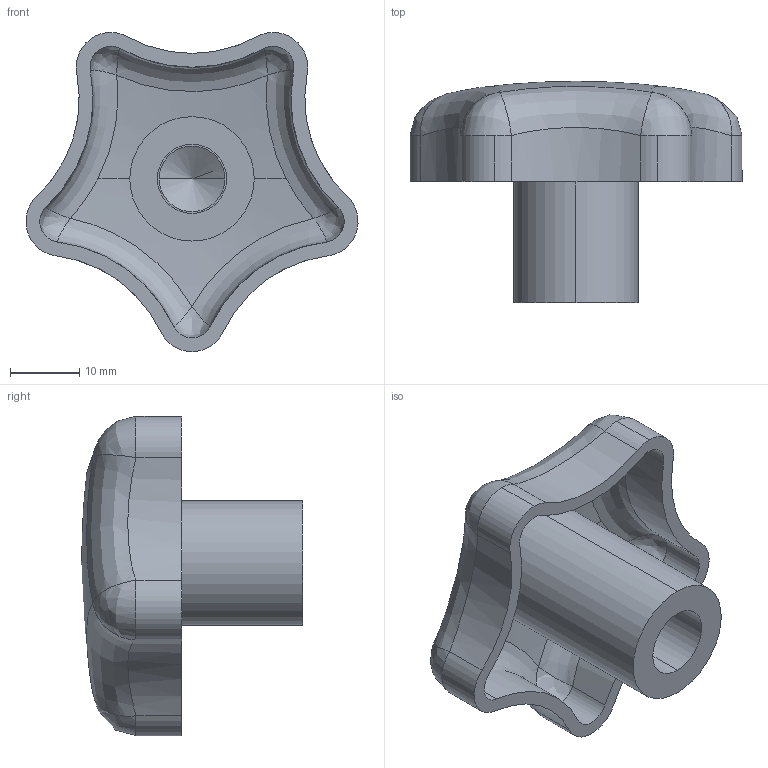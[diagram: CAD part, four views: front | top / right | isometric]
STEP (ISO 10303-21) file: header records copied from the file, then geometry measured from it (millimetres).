
FILE_DESCRIPTION (( 'STEP AP203' ), '1' );
FILE_NAME ('Default.step', '2010-01-31T12:11:56', ( 'Wixroyd' ), ( 'Wixroyd' ), 'SwSTEP 2.0', 'SolidWorks 2009', '' );
FILE_SCHEMA (( 'CONFIG_CONTROL_DESIGN' ));
Length unit declared in the file: millimetre
Products named in the file (1): Default
Bounding box: 48.03 x 32 x 46.16 mm (x, y, z)
Volume: 11277.8 mm3; surface area: 8128.4 mm2
Topology: 1 solids, 1 shells, 59 faces, 146 edges, 80 vertices
Faces by surface type: cylinder 30, bspline 20, sphere 4, plane 3, cone 2
Entity records: 12108 total; most frequent: CARTESIAN_POINT 10811, ORIENTED_EDGE 268, DIRECTION 228, EDGE_CURVE 134, AXIS2_PLACEMENT_3D 98, VERTEX_POINT 80, EDGE_LOOP 62, FACE_OUTER_BOUND 59
